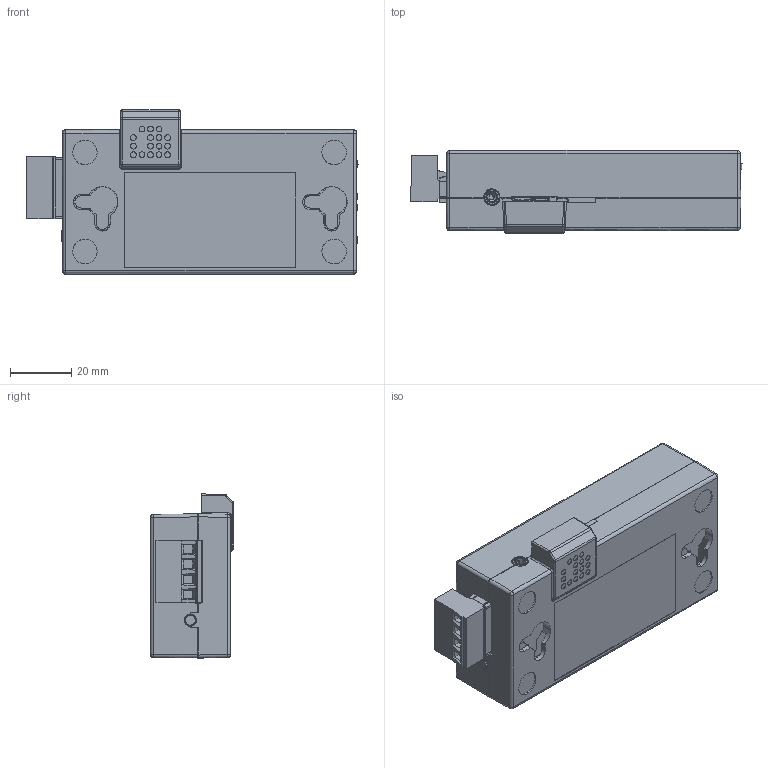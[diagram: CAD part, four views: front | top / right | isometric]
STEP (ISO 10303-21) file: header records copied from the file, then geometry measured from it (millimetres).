
FILE_DESCRIPTION (( 'STEP AP214' ), '1' );
FILE_NAME ('DiGidot C1.STEP', '2025-05-27T10:50:30', ( '' ), ( '' ), 'SwSTEP 2.0', 'SolidWorks 2025', '' );
FILE_SCHEMA (( 'AUTOMOTIVE_DESIGN' ));
Length unit declared in the file: millimetre
Products named in the file (8): PCB_Concept-V0.3; DiGidot C1; BOTTOM ENCLOSURE-V2; ILLUMINATION LIGHT TOP-V2; DiGidot C1 with Din Rail mount(2); TOP ENCLOSURE-V2; 2ESDV-04P; GLASS FOR D-V2
Assembly tree (7 placements, depth 3):
  DiGidot C1
    DiGidot C1 with Din Rail mount(2)
      BOTTOM ENCLOSURE-V2
      TOP ENCLOSURE-V2
      ILLUMINATION LIGHT TOP-V2
      GLASS FOR D-V2
      PCB_Concept-V0.3
      2ESDV-04P
Bounding box: 108.73 x 27.2 x 53.76 mm (x, y, z)
Volume: 28660.9 mm3; surface area: 63770.4 mm2
Topology: 5 solids, 30 shells, 5233 faces, 15017 edges, 9717 vertices
Faces by surface type: bspline 5233
Entity records: 178879 total; most frequent: CARTESIAN_POINT 90753, ORIENTED_EDGE 29513, EDGE_CURVE 14979, B_SPLINE_CURVE_WITH_KNOTS 13448, VERTEX_POINT 9699, EDGE_LOOP 5626, ADVANCED_FACE 5233, FACE_OUTER_BOUND 5232
